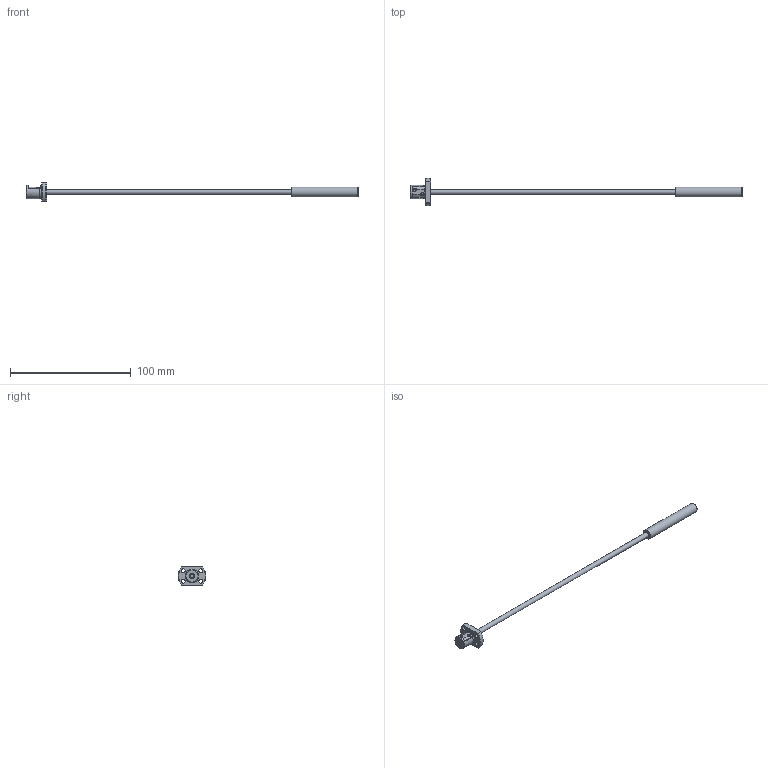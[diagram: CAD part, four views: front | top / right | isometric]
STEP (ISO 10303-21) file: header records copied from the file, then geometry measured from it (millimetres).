
FILE_DESCRIPTION( ( 'STEP AP203' ), '1' );
FILE_NAME( 'e:/temp/worker_106/temp/exporttempdir_5800_65_rY9NJ/format_0/SRT0401-216R275C7A0X(0None).stp', '2021-10-19T05:18:42', ( 'License CC BY-ND 4.0' ), ( 'CADENAS' ), ' ', 'PARTsolutions', ' ' );
FILE_SCHEMA( ( 'CONFIG_CONTROL_DESIGN' ) );
Length unit declared in the file: millimetre
Products named in the file (3): SRT0401-216R275C7A0X(0None); _SRT0401-216R275ACt7NoneShaft; _SRT0401Nut
Assembly tree (2 placements, depth 2):
  SRT0401-216R275C7A0X(0None)
    _SRT0401-216R275ACt7NoneShaft
    _SRT0401Nut
Bounding box: 275 x 22.93 x 15 mm (x, y, z)
Volume: 7680.1 mm3; surface area: 5922.2 mm2
Topology: 2 solids, 2 shells, 50 faces, 130 edges, 86 vertices
Faces by surface type: plane 24, cylinder 15, cone 11
Full cylindrical faces by diameter (mm): 1 x2, 3.4 x4, 4 x2, 8.2 x1, 10.5 x1, 11 x1
Entity records: 1532 total; most frequent: CARTESIAN_POINT 311, DIRECTION 238, ORIENTED_EDGE 202, AXIS2_PLACEMENT_3D 102, EDGE_CURVE 101, EDGE_LOOP 80, VERTEX_POINT 75, FACE_OUTER_BOUND 61
